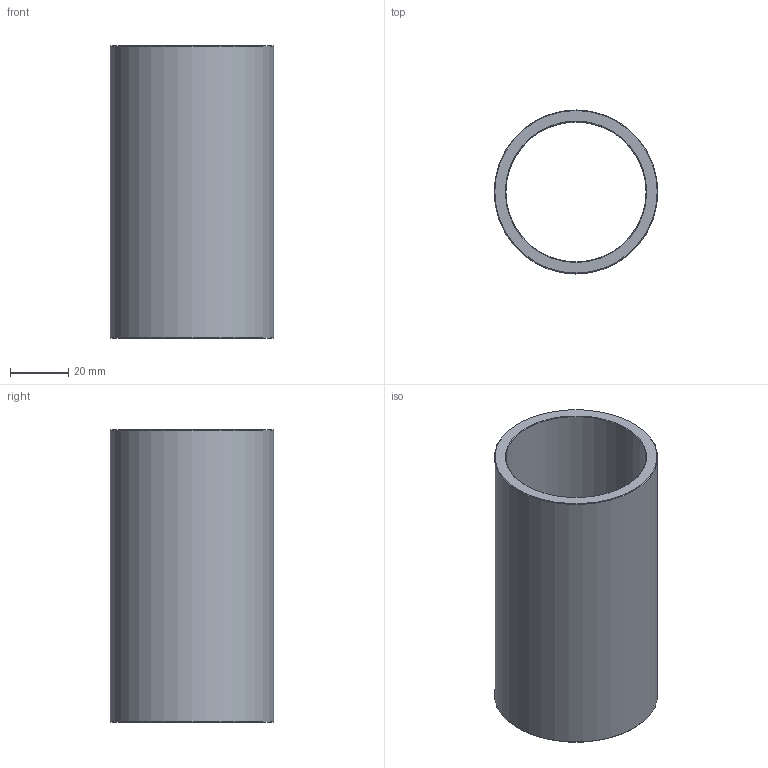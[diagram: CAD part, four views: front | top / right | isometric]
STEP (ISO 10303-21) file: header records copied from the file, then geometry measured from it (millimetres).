
FILE_DESCRIPTION(('STEP AP203'),'1');
FILE_NAME('C:/Users/Rodrigo/Desktop/GA4.048.100-1.step','2016-11-07T19:30:14',(' '),(' '),'Spatial InterOp 3D',' ',' ');
FILE_SCHEMA(('CONFIG_CONTROL_DESIGN'));
Length unit declared in the file: millimetre
Products named in the file (1): 1
Bounding box: 56 x 56 x 100 mm (x, y, z)
Volume: 65332.1 mm3; surface area: 33902.9 mm2
Topology: 1 solids, 1 shells, 8 faces, 14 edges, 8 vertices
Faces by surface type: cone 4, cylinder 2, plane 2
Full cylindrical faces by diameter (mm): 48 x1, 56 x1
Entity records: 212 total; most frequent: DIRECTION 34, CARTESIAN_POINT 25, AXIS2_PLACEMENT_3D 17, EDGE_LOOP 16, ORIENTED_EDGE 16, FACE_OUTER_BOUND 10, ADVANCED_FACE 8, EDGE_CURVE 8
